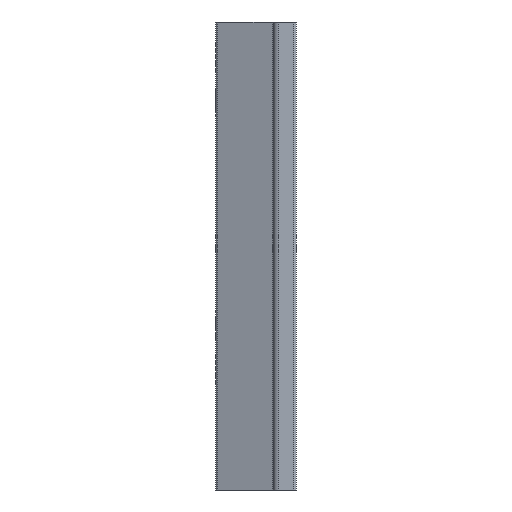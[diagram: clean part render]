
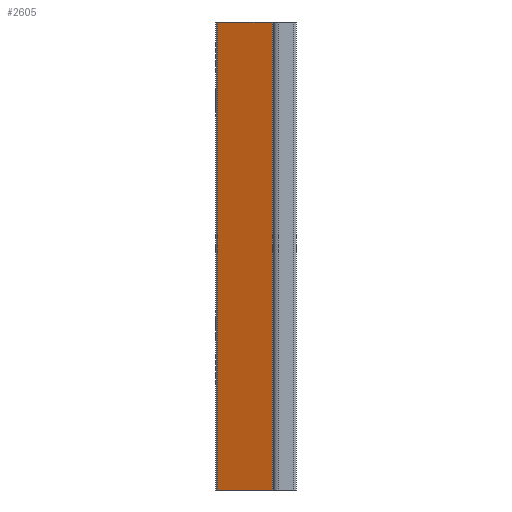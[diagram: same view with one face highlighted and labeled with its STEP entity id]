
A CAD part, left-side view. The second image highlights one B-rep face of the part: STEP entity #2605.
In plain terms, the highlighted planar face has unit normal (-0.945, 0.327, 0).
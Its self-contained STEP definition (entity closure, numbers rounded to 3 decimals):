
#16 = VERTEX_POINT ( 'NONE', #1907 ) ;
#369 = EDGE_CURVE ( 'NONE', #2309, #16, #1471, .T. ) ;
#387 = EDGE_CURVE ( 'NONE', #2309, #2504, #2069, .T. ) ;
#404 = EDGE_CURVE ( 'NONE', #2504, #607, #1994, .T. ) ;
#410 = EDGE_CURVE ( 'NONE', #607, #16, #633, .T. ) ;
#429 = DIRECTION ( 'NONE',  ( 0., 0., -1. ) ) ;
#607 = VERTEX_POINT ( 'NONE', #1436 ) ;
#633 = LINE ( 'NONE', #3039, #3356 ) ;
#713 = CARTESIAN_POINT ( 'NONE',  ( -33.5, 18., 0. ) ) ;
#936 = DIRECTION ( 'NONE',  ( 0.945, -0.327, 0. ) ) ;
#993 = EDGE_LOOP ( 'NONE', ( #1670, #3072, #1177, #1679 ) ) ;
#1177 = ORIENTED_EDGE ( 'NONE', *, *, #404, .T. ) ;
#1269 = CARTESIAN_POINT ( 'NONE',  ( -33.5, 18., 105. ) ) ;
#1283 = DIRECTION ( 'NONE',  ( -0.327, -0.945, 0. ) ) ;
#1297 = VECTOR ( 'NONE', #1283, 1000. ) ;
#1417 = AXIS2_PLACEMENT_3D ( 'NONE', #2748, #936, #2990 ) ;
#1436 = CARTESIAN_POINT ( 'NONE',  ( -37.884, 5.336, 0. ) ) ;
#1471 = LINE ( 'NONE', #1269, #2717 ) ;
#1554 = DIRECTION ( 'NONE',  ( -0.327, -0.945, 0. ) ) ;
#1622 = FACE_OUTER_BOUND ( 'NONE', #993, .T. ) ;
#1670 = ORIENTED_EDGE ( 'NONE', *, *, #369, .F. ) ;
#1679 = ORIENTED_EDGE ( 'NONE', *, *, #410, .T. ) ;
#1857 = CARTESIAN_POINT ( 'NONE',  ( -33.616, 17.664, 105. ) ) ;
#1907 = CARTESIAN_POINT ( 'NONE',  ( -37.884, 5.336, 105. ) ) ;
#1994 = LINE ( 'NONE', #713, #1297 ) ;
#2069 = LINE ( 'NONE', #2295, #3283 ) ;
#2235 = CARTESIAN_POINT ( 'NONE',  ( -33.616, 17.664, 0. ) ) ;
#2295 = CARTESIAN_POINT ( 'NONE',  ( -33.616, 17.664, 105. ) ) ;
#2309 = VERTEX_POINT ( 'NONE', #1857 ) ;
#2503 = PLANE ( 'NONE',  #1417 ) ;
#2504 = VERTEX_POINT ( 'NONE', #2235 ) ;
#2605 = ADVANCED_FACE ( 'NONE', ( #1622 ), #2503, .F. ) ;
#2717 = VECTOR ( 'NONE', #1554, 1000. ) ;
#2748 = CARTESIAN_POINT ( 'NONE',  ( -33.5, 18., 105. ) ) ;
#2990 = DIRECTION ( 'NONE',  ( 0.327, 0.945, 0. ) ) ;
#3039 = CARTESIAN_POINT ( 'NONE',  ( -37.884, 5.336, 105. ) ) ;
#3072 = ORIENTED_EDGE ( 'NONE', *, *, #387, .T. ) ;
#3277 = DIRECTION ( 'NONE',  ( 0., 0., 1. ) ) ;
#3283 = VECTOR ( 'NONE', #429, 1000. ) ;
#3356 = VECTOR ( 'NONE', #3277, 1000. ) ;
